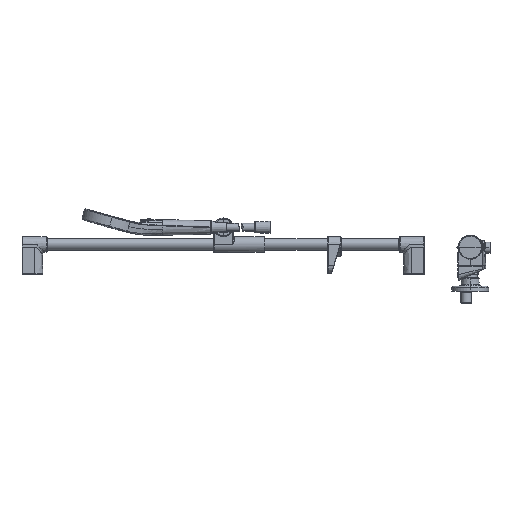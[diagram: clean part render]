
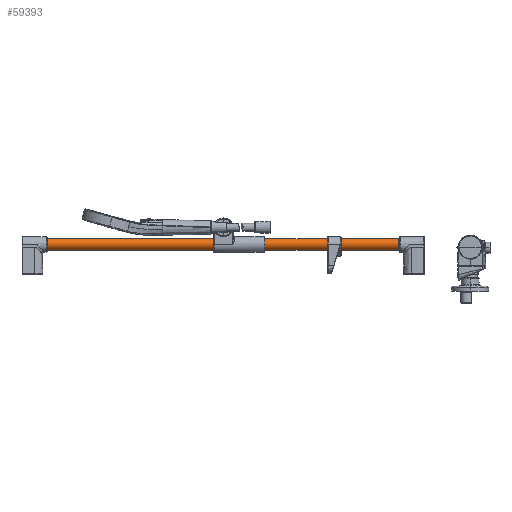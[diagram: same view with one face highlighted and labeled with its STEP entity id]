
A CAD part, left-side view. The second image highlights one B-rep face of the part: STEP entity #59393.
In plain terms, the highlighted cylindrical face has radius 10.95 mm (diameter 21.9 mm), a partial arc.
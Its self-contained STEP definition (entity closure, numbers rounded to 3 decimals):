
#839 = CARTESIAN_POINT ( 'NONE',  ( 0., -416.3, 0. ) ) ;
#1332 = CIRCLE ( 'NONE', #7179, 10.95 ) ;
#2633 = DIRECTION ( 'NONE',  ( 0., 0., 1. ) ) ;
#4205 = DIRECTION ( 'NONE',  ( 0., -1., 0. ) ) ;
#4404 = LINE ( 'NONE', #30107, #80064 ) ;
#4483 = DIRECTION ( 'NONE',  ( 0., 0., -1. ) ) ;
#5616 = VECTOR ( 'NONE', #76022, 1000. ) ;
#6276 = ORIENTED_EDGE ( 'NONE', *, *, #21237, .T. ) ;
#7179 = AXIS2_PLACEMENT_3D ( 'NONE', #839, #45028, #20077 ) ;
#8597 = CARTESIAN_POINT ( 'NONE',  ( 0., 343.7, 10.95 ) ) ;
#14526 = LINE ( 'NONE', #32334, #5616 ) ;
#14794 = CIRCLE ( 'NONE', #29941, 10.95 ) ;
#17194 = DIRECTION ( 'NONE',  ( 0., -1., 0. ) ) ;
#20077 = DIRECTION ( 'NONE',  ( 0., 0., -1. ) ) ;
#20304 = EDGE_LOOP ( 'NONE', ( #34157, #6276, #31905, #59055 ) ) ;
#21237 = EDGE_CURVE ( 'NONE', #64130, #62648, #14526, .T. ) ;
#23252 = DIRECTION ( 'NONE',  ( 0., -1., 0. ) ) ;
#23423 = VERTEX_POINT ( 'NONE', #45668 ) ;
#23464 = VERTEX_POINT ( 'NONE', #8597 ) ;
#28524 = AXIS2_PLACEMENT_3D ( 'NONE', #36414, #17194, #2633 ) ;
#29941 = AXIS2_PLACEMENT_3D ( 'NONE', #48941, #4205, #4483 ) ;
#30107 = CARTESIAN_POINT ( 'NONE',  ( 0., 343.7, 10.95 ) ) ;
#31887 = CARTESIAN_POINT ( 'NONE',  ( 0., 343.7, -10.95 ) ) ;
#31905 = ORIENTED_EDGE ( 'NONE', *, *, #33906, .F. ) ;
#32334 = CARTESIAN_POINT ( 'NONE',  ( 0., 343.7, -10.95 ) ) ;
#33906 = EDGE_CURVE ( 'NONE', #23423, #62648, #1332, .T. ) ;
#34157 = ORIENTED_EDGE ( 'NONE', *, *, #75259, .T. ) ;
#36404 = CARTESIAN_POINT ( 'NONE',  ( 0., -416.3, -10.95 ) ) ;
#36414 = CARTESIAN_POINT ( 'NONE',  ( 0., 343.7, 0. ) ) ;
#38787 = FACE_OUTER_BOUND ( 'NONE', #20304, .T. ) ;
#39793 = CYLINDRICAL_SURFACE ( 'NONE', #28524, 10.95 ) ;
#45028 = DIRECTION ( 'NONE',  ( 0., -1., 0. ) ) ;
#45668 = CARTESIAN_POINT ( 'NONE',  ( 0., -416.3, 10.95 ) ) ;
#48941 = CARTESIAN_POINT ( 'NONE',  ( 0., 343.7, 0. ) ) ;
#59055 = ORIENTED_EDGE ( 'NONE', *, *, #59390, .F. ) ;
#59390 = EDGE_CURVE ( 'NONE', #23464, #23423, #4404, .T. ) ;
#59393 = ADVANCED_FACE ( 'NONE', ( #38787 ), #39793, .T. ) ;
#62648 = VERTEX_POINT ( 'NONE', #36404 ) ;
#64130 = VERTEX_POINT ( 'NONE', #31887 ) ;
#75259 = EDGE_CURVE ( 'NONE', #23464, #64130, #14794, .T. ) ;
#76022 = DIRECTION ( 'NONE',  ( 0., -1., 0. ) ) ;
#80064 = VECTOR ( 'NONE', #23252, 1000. ) ;
